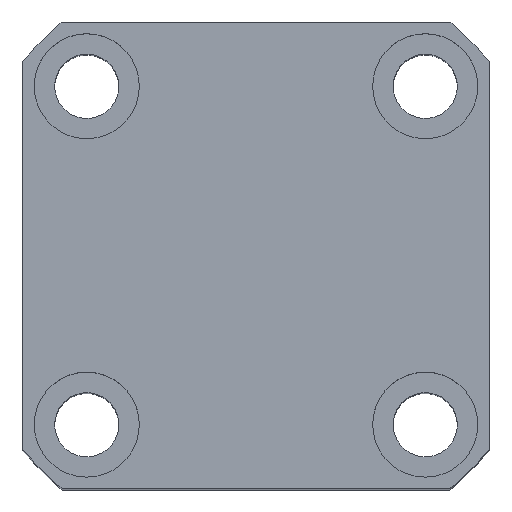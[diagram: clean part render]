
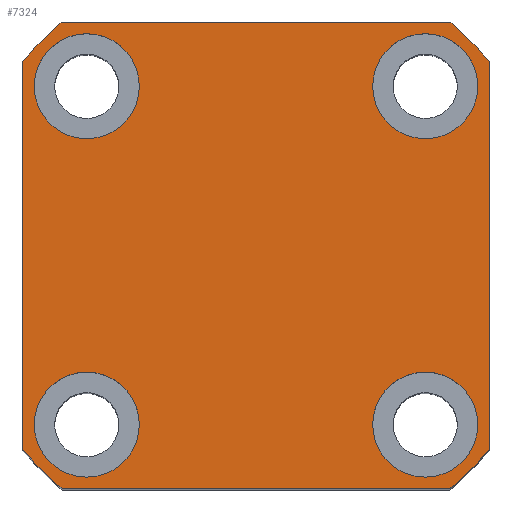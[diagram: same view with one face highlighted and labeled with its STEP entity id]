
A CAD part, top view. The second image highlights one B-rep face of the part: STEP entity #7324.
In plain terms, the highlighted planar face has unit normal (0, 0, 1).
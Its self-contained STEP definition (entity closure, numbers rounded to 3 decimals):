
#126 = DIRECTION ( 'NONE',  ( 0., 0., 1. ) ) ;
#192 = DIRECTION ( 'NONE',  ( 1., 0., 0. ) ) ;
#320 = VERTEX_POINT ( 'NONE', #14550 ) ;
#1003 = VERTEX_POINT ( 'NONE', #6939 ) ;
#1135 = VERTEX_POINT ( 'NONE', #7629 ) ;
#1142 = CARTESIAN_POINT ( 'NONE',  ( 29., 29., 57.5 ) ) ;
#1206 = AXIS2_PLACEMENT_3D ( 'NONE', #11235, #126, #2910 ) ;
#1282 = DIRECTION ( 'NONE',  ( -1., 0., 0. ) ) ;
#1299 = ORIENTED_EDGE ( 'NONE', *, *, #13580, .T. ) ;
#1318 = ORIENTED_EDGE ( 'NONE', *, *, #6687, .T. ) ;
#1495 = EDGE_CURVE ( 'NONE', #12214, #10564, #3426, .T. ) ;
#1522 = VERTEX_POINT ( 'NONE', #3401 ) ;
#1929 = AXIS2_PLACEMENT_3D ( 'NONE', #5459, #15226, #12452 ) ;
#2051 = ORIENTED_EDGE ( 'NONE', *, *, #5361, .T. ) ;
#2071 = ORIENTED_EDGE ( 'NONE', *, *, #17654, .T. ) ;
#2073 = CIRCLE ( 'NONE', #9761, 9. ) ;
#2451 = LINE ( 'NONE', #3021, #17079 ) ;
#2710 = VERTEX_POINT ( 'NONE', #4310 ) ;
#2725 = AXIS2_PLACEMENT_3D ( 'NONE', #12152, #2818, #6897 ) ;
#2741 = AXIS2_PLACEMENT_3D ( 'NONE', #3556, #9036, #4899 ) ;
#2818 = DIRECTION ( 'NONE',  ( 0., 0., 1. ) ) ;
#2910 = DIRECTION ( 'NONE',  ( 1., 0., 0. ) ) ;
#2915 = CIRCLE ( 'NONE', #6871, 9. ) ;
#2972 = ORIENTED_EDGE ( 'NONE', *, *, #5230, .T. ) ;
#3021 = CARTESIAN_POINT ( 'NONE',  ( 40., 33.226, 57.5 ) ) ;
#3116 = DIRECTION ( 'NONE',  ( 0., 0., 1. ) ) ;
#3206 = CIRCLE ( 'NONE', #1206, 52. ) ;
#3249 = ORIENTED_EDGE ( 'NONE', *, *, #8366, .T. ) ;
#3309 = ORIENTED_EDGE ( 'NONE', *, *, #11047, .T. ) ;
#3401 = CARTESIAN_POINT ( 'NONE',  ( 40., 33.226, 57.5 ) ) ;
#3426 = CIRCLE ( 'NONE', #14713, 9. ) ;
#3445 = ORIENTED_EDGE ( 'NONE', *, *, #3729, .F. ) ;
#3508 = EDGE_CURVE ( 'NONE', #10564, #12214, #2073, .T. ) ;
#3516 = VERTEX_POINT ( 'NONE', #16963 ) ;
#3556 = CARTESIAN_POINT ( 'NONE',  ( 0., 0., 57.5 ) ) ;
#3705 = DIRECTION ( 'NONE',  ( 0., 0., 1. ) ) ;
#3729 = EDGE_CURVE ( 'NONE', #12948, #12356, #16503, .T. ) ;
#3746 = EDGE_LOOP ( 'NONE', ( #17849, #5924 ) ) ;
#3885 = DIRECTION ( 'NONE',  ( 0., -1., 0. ) ) ;
#3940 = AXIS2_PLACEMENT_3D ( 'NONE', #9124, #3705, #13470 ) ;
#4015 = VERTEX_POINT ( 'NONE', #8271 ) ;
#4063 = EDGE_LOOP ( 'NONE', ( #9146, #17008 ) ) ;
#4187 = AXIS2_PLACEMENT_3D ( 'NONE', #17591, #17525, #12116 ) ;
#4222 = LINE ( 'NONE', #15659, #14954 ) ;
#4310 = CARTESIAN_POINT ( 'NONE',  ( 33.226, 40., 57.5 ) ) ;
#4401 = FACE_BOUND ( 'NONE', #3746, .T. ) ;
#4550 = CIRCLE ( 'NONE', #6316, 9. ) ;
#4892 = VERTEX_POINT ( 'NONE', #14506 ) ;
#4899 = DIRECTION ( 'NONE',  ( 1., 0., 0. ) ) ;
#5024 = DIRECTION ( 'NONE',  ( 0., 0., 1. ) ) ;
#5230 = EDGE_CURVE ( 'NONE', #3516, #1003, #7977, .T. ) ;
#5331 = EDGE_LOOP ( 'NONE', ( #11694, #3445 ) ) ;
#5361 = EDGE_CURVE ( 'NONE', #11112, #320, #4222, .T. ) ;
#5459 = CARTESIAN_POINT ( 'NONE',  ( 0., 0., 57.5 ) ) ;
#5759 = EDGE_LOOP ( 'NONE', ( #9731, #11193 ) ) ;
#5924 = ORIENTED_EDGE ( 'NONE', *, *, #13679, .F. ) ;
#6316 = AXIS2_PLACEMENT_3D ( 'NONE', #15505, #3116, #8710 ) ;
#6552 = VERTEX_POINT ( 'NONE', #7777 ) ;
#6655 = CARTESIAN_POINT ( 'NONE',  ( 20., -29., 57.5 ) ) ;
#6687 = EDGE_CURVE ( 'NONE', #6552, #3516, #16241, .T. ) ;
#6871 = AXIS2_PLACEMENT_3D ( 'NONE', #1142, #9511, #6949 ) ;
#6897 = DIRECTION ( 'NONE',  ( 1., 0., 0. ) ) ;
#6939 = CARTESIAN_POINT ( 'NONE',  ( -40., -33.226, 57.5 ) ) ;
#6949 = DIRECTION ( 'NONE',  ( 1., 0., 0. ) ) ;
#6989 = EDGE_LOOP ( 'NONE', ( #1318, #2972, #2071, #2051, #3309, #3249, #1299, #11648 ) ) ;
#7324 = ADVANCED_FACE ( 'NONE', ( #12481, #16879, #4401, #17554, #10516 ), #10924, .T. ) ;
#7543 = DIRECTION ( 'NONE',  ( 1., 0., 0. ) ) ;
#7629 = CARTESIAN_POINT ( 'NONE',  ( 38., 29., 57.5 ) ) ;
#7777 = CARTESIAN_POINT ( 'NONE',  ( -33.226, 40., 57.5 ) ) ;
#7977 = LINE ( 'NONE', #18062, #17354 ) ;
#8196 = DIRECTION ( 'NONE',  ( 1., 0., 0. ) ) ;
#8224 = CARTESIAN_POINT ( 'NONE',  ( 38., -29., 57.5 ) ) ;
#8271 = CARTESIAN_POINT ( 'NONE',  ( 20., 29., 57.5 ) ) ;
#8342 = CARTESIAN_POINT ( 'NONE',  ( -20., -29., 57.5 ) ) ;
#8366 = EDGE_CURVE ( 'NONE', #13737, #1522, #2451, .T. ) ;
#8462 = DIRECTION ( 'NONE',  ( 1., 0., 0. ) ) ;
#8710 = DIRECTION ( 'NONE',  ( 1., 0., 0. ) ) ;
#9036 = DIRECTION ( 'NONE',  ( 0., 0., 1. ) ) ;
#9115 = AXIS2_PLACEMENT_3D ( 'NONE', #15147, #16398, #8196 ) ;
#9124 = CARTESIAN_POINT ( 'NONE',  ( 0., 0., 57.5 ) ) ;
#9146 = ORIENTED_EDGE ( 'NONE', *, *, #13991, .F. ) ;
#9170 = CIRCLE ( 'NONE', #17397, 9. ) ;
#9448 = CARTESIAN_POINT ( 'NONE',  ( 40., -33.226, 57.5 ) ) ;
#9511 = DIRECTION ( 'NONE',  ( 0., 0., 1. ) ) ;
#9662 = CIRCLE ( 'NONE', #3940, 52. ) ;
#9731 = ORIENTED_EDGE ( 'NONE', *, *, #3508, .F. ) ;
#9761 = AXIS2_PLACEMENT_3D ( 'NONE', #11312, #15559, #8462 ) ;
#9990 = EDGE_CURVE ( 'NONE', #4892, #11664, #9170, .T. ) ;
#10241 = VECTOR ( 'NONE', #1282, 1000. ) ;
#10454 = CIRCLE ( 'NONE', #16961, 52. ) ;
#10516 = FACE_OUTER_BOUND ( 'NONE', #6989, .T. ) ;
#10564 = VERTEX_POINT ( 'NONE', #8342 ) ;
#10831 = CARTESIAN_POINT ( 'NONE',  ( -38., -29., 57.5 ) ) ;
#10924 = PLANE ( 'NONE',  #1929 ) ;
#11047 = EDGE_CURVE ( 'NONE', #320, #13737, #9662, .T. ) ;
#11112 = VERTEX_POINT ( 'NONE', #15118 ) ;
#11193 = ORIENTED_EDGE ( 'NONE', *, *, #1495, .F. ) ;
#11235 = CARTESIAN_POINT ( 'NONE',  ( 0., 0., 57.5 ) ) ;
#11304 = CIRCLE ( 'NONE', #9115, 9. ) ;
#11312 = CARTESIAN_POINT ( 'NONE',  ( -29., -29., 57.5 ) ) ;
#11526 = EDGE_CURVE ( 'NONE', #4015, #1135, #2915, .T. ) ;
#11604 = DIRECTION ( 'NONE',  ( 0., 1., 0. ) ) ;
#11648 = ORIENTED_EDGE ( 'NONE', *, *, #12211, .T. ) ;
#11664 = VERTEX_POINT ( 'NONE', #15342 ) ;
#11694 = ORIENTED_EDGE ( 'NONE', *, *, #16497, .F. ) ;
#12116 = DIRECTION ( 'NONE',  ( 1., 0., 0. ) ) ;
#12152 = CARTESIAN_POINT ( 'NONE',  ( 29., -29., 57.5 ) ) ;
#12211 = EDGE_CURVE ( 'NONE', #2710, #6552, #12646, .T. ) ;
#12214 = VERTEX_POINT ( 'NONE', #10831 ) ;
#12356 = VERTEX_POINT ( 'NONE', #8224 ) ;
#12452 = DIRECTION ( 'NONE',  ( 1., 0., 0. ) ) ;
#12481 = FACE_BOUND ( 'NONE', #5331, .T. ) ;
#12646 = LINE ( 'NONE', #15011, #10241 ) ;
#12806 = CIRCLE ( 'NONE', #2725, 9. ) ;
#12948 = VERTEX_POINT ( 'NONE', #6655 ) ;
#13023 = DIRECTION ( 'NONE',  ( 0., 0., 1. ) ) ;
#13470 = DIRECTION ( 'NONE',  ( 1., 0., 0. ) ) ;
#13580 = EDGE_CURVE ( 'NONE', #1522, #2710, #10454, .T. ) ;
#13679 = EDGE_CURVE ( 'NONE', #11664, #4892, #11304, .T. ) ;
#13737 = VERTEX_POINT ( 'NONE', #9448 ) ;
#13991 = EDGE_CURVE ( 'NONE', #1135, #4015, #4550, .T. ) ;
#14506 = CARTESIAN_POINT ( 'NONE',  ( -20., 29., 57.5 ) ) ;
#14550 = CARTESIAN_POINT ( 'NONE',  ( 33.226, -40., 57.5 ) ) ;
#14713 = AXIS2_PLACEMENT_3D ( 'NONE', #16034, #13023, #7543 ) ;
#14954 = VECTOR ( 'NONE', #17187, 1000. ) ;
#15011 = CARTESIAN_POINT ( 'NONE',  ( -33.226, 40., 57.5 ) ) ;
#15118 = CARTESIAN_POINT ( 'NONE',  ( -33.226, -40., 57.5 ) ) ;
#15147 = CARTESIAN_POINT ( 'NONE',  ( -29., 29., 57.5 ) ) ;
#15226 = DIRECTION ( 'NONE',  ( 0., 0., 1. ) ) ;
#15342 = CARTESIAN_POINT ( 'NONE',  ( -38., 29., 57.5 ) ) ;
#15492 = CARTESIAN_POINT ( 'NONE',  ( -29., 29., 57.5 ) ) ;
#15505 = CARTESIAN_POINT ( 'NONE',  ( 29., 29., 57.5 ) ) ;
#15559 = DIRECTION ( 'NONE',  ( 0., 0., 1. ) ) ;
#15615 = DIRECTION ( 'NONE',  ( 0., 0., 1. ) ) ;
#15659 = CARTESIAN_POINT ( 'NONE',  ( -33.226, -40., 57.5 ) ) ;
#16019 = DIRECTION ( 'NONE',  ( 1., 0., 0. ) ) ;
#16034 = CARTESIAN_POINT ( 'NONE',  ( -29., -29., 57.5 ) ) ;
#16241 = CIRCLE ( 'NONE', #2741, 52. ) ;
#16398 = DIRECTION ( 'NONE',  ( 0., 0., 1. ) ) ;
#16497 = EDGE_CURVE ( 'NONE', #12356, #12948, #12806, .T. ) ;
#16503 = CIRCLE ( 'NONE', #4187, 9. ) ;
#16879 = FACE_BOUND ( 'NONE', #5759, .T. ) ;
#16961 = AXIS2_PLACEMENT_3D ( 'NONE', #17555, #5024, #16019 ) ;
#16963 = CARTESIAN_POINT ( 'NONE',  ( -40., 33.226, 57.5 ) ) ;
#17008 = ORIENTED_EDGE ( 'NONE', *, *, #11526, .F. ) ;
#17079 = VECTOR ( 'NONE', #11604, 1000. ) ;
#17187 = DIRECTION ( 'NONE',  ( 1., 0., 0. ) ) ;
#17354 = VECTOR ( 'NONE', #3885, 1000. ) ;
#17397 = AXIS2_PLACEMENT_3D ( 'NONE', #15492, #15615, #192 ) ;
#17525 = DIRECTION ( 'NONE',  ( 0., 0., 1. ) ) ;
#17554 = FACE_BOUND ( 'NONE', #4063, .T. ) ;
#17555 = CARTESIAN_POINT ( 'NONE',  ( 0., 0., 57.5 ) ) ;
#17591 = CARTESIAN_POINT ( 'NONE',  ( 29., -29., 57.5 ) ) ;
#17654 = EDGE_CURVE ( 'NONE', #1003, #11112, #3206, .T. ) ;
#17849 = ORIENTED_EDGE ( 'NONE', *, *, #9990, .F. ) ;
#18062 = CARTESIAN_POINT ( 'NONE',  ( -40., 33.226, 57.5 ) ) ;
